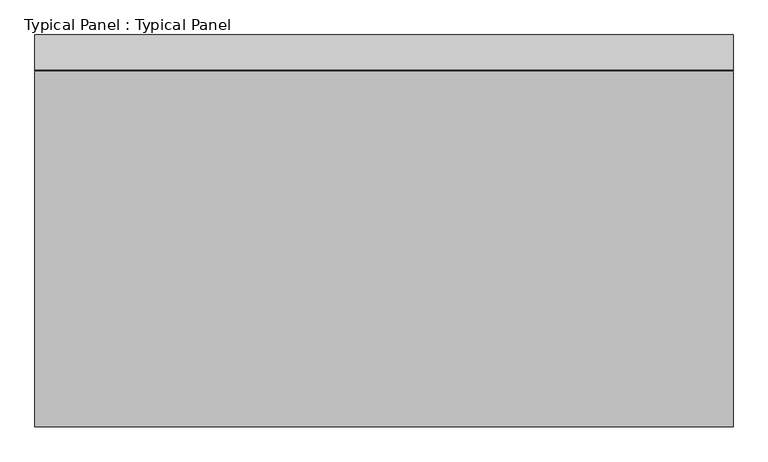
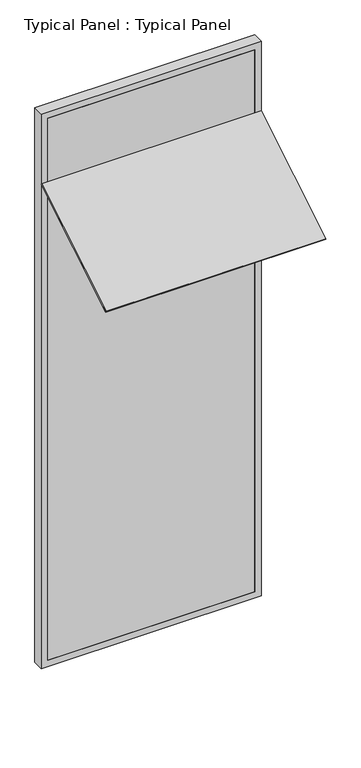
"""IFC4 building model written with IfcOpenShell, lengths in millimetres: plate geometry, Typical Panel : Typical Panel."""

import ifcopenshell
import ifcopenshell.guid

model = None  # the IFC model being written
_history = None  # IfcOwnerHistory: only IFC2X3 demands one
_inside = {}  # id of a spatial element -> (the spatial element, [elements in it])
_under = {}  # id of a project, library or spatial element -> (it, [spatial elements below it])
_declared = {}  # id of a project -> (the project, [libraries it declares])
_typed = {}  # id of a type object -> (the type object, [elements of that type])
_made_of = {}  # id of a material, layer set ... -> (it, [elements and type objects made of it])


def new_model(schema):
    """Start an empty IFC model of exactly this schema.

    Asked for "IFC4X3", IfcOpenShell would pick the latest addendum, in which some entities
    have other attributes; the version numbers below select the first issue.
    IFC2X3 requires an IfcOwnerHistory on every rooted entity: one is made here for all.
    """
    global model, _history
    if schema == "IFC4X3":
        model = ifcopenshell.file(schema_version=(4, 3, 0, 0))
    else:
        model = ifcopenshell.file(schema=schema)
    _inside.clear()
    _under.clear()
    _declared.clear()
    _typed.clear()
    _made_of.clear()
    _history = None
    if model.schema == "IFC2X3":
        org = make("IfcOrganization", Name="unknown")
        user = make(
            "IfcPersonAndOrganization",
            ThePerson=make("IfcPerson", FamilyName="unknown"),
            TheOrganization=org,
        )
        app = make(
            "IfcApplication",
            ApplicationDeveloper=org,
            Version="unknown",
            ApplicationFullName="unknown",
            ApplicationIdentifier="unknown",
        )
        _history = make(
            "IfcOwnerHistory",
            OwningUser=user,
            OwningApplication=app,
            ChangeAction="ADDED",
            CreationDate=0,
        )
    return model


def make(cls, **values):
    """One entity of the class cls with the attributes given. An attribute that is None is left unset."""
    return model.create_entity(
        cls, **{name: value for name, value in values.items() if value is not None}
    )


def rooted(cls, **values):
    """An entity with a GlobalId (a new one), such as an element, a storey or a relation."""
    return make(cls, GlobalId=ifcopenshell.guid.new(), OwnerHistory=_history, **values)


def si_unit(unit_type, name, prefix=None):
    """IfcSIUnit, for example si_unit("LENGTHUNIT", "METRE", prefix="MILLI")."""
    return make("IfcSIUnit", UnitType=unit_type, Prefix=prefix, Name=name)


def assignment(units):
    """IfcUnitAssignment: the units of a project."""
    return None if units is None else make("IfcUnitAssignment", Units=units)


def point(xyz):
    """IfcCartesianPoint."""
    return None if xyz is None else make("IfcCartesianPoint", Coordinates=xyz)


def direction(xyz):
    """IfcDirection."""
    return None if xyz is None else make("IfcDirection", DirectionRatios=xyz)


def frame(location, z_axis=None, x_axis=None):
    """IfcAxis2Placement3D, a coordinate frame: its origin and axes. An axis left out is left unset."""
    return make(
        "IfcAxis2Placement3D",
        Location=point(location),
        Axis=direction(z_axis),
        RefDirection=direction(x_axis),
    )


def origin():
    """The frame at (0, 0, 0) with its axes left unset."""
    return frame((0.0, 0.0, 0.0))


def place(relative_to, where):
    """IfcLocalPlacement: puts the frame where relative to a parent placement (None: the world)."""
    return make(
        "IfcLocalPlacement", PlacementRelTo=relative_to, RelativePlacement=where
    )


def context(
    kind, dimensions, precision=None, world=None, true_north=None, identifier=None
):
    """IfcGeometricRepresentationContext, for example the 3D "Model" context."""
    return make(
        "IfcGeometricRepresentationContext",
        ContextIdentifier=identifier,
        ContextType=kind,
        CoordinateSpaceDimension=dimensions,
        Precision=precision,
        WorldCoordinateSystem=world,
        TrueNorth=true_north,
    )


def project(units=None, contexts=None):
    """IfcProject with its units and contexts."""
    return rooted(
        "IfcProject",
        Name="project",
        RepresentationContexts=contexts,
        UnitsInContext=assignment(units),
    )


def spatial(cls, under=None, at=None, **own):
    """A site, building, storey or space (cls), placed at a placement, below another one or the project."""
    s = rooted(cls, ObjectPlacement=at, **own)
    if under is not None:
        _under.setdefault(under.id(), (under, []))[1].append(s)
    return s


def polyline(points):
    """IfcPolyline through the points."""
    return make("IfcPolyline", Points=[point(p) for p in points])


def outline(outer, holes=None, kind="AREA"):
    """IfcArbitraryClosedProfileDef: a profile drawn as a closed curve; with holes, ...WithVoids."""
    if holes is None:
        return make("IfcArbitraryClosedProfileDef", ProfileType=kind, OuterCurve=outer)
    return make(
        "IfcArbitraryProfileDefWithVoids",
        ProfileType=kind,
        OuterCurve=outer,
        InnerCurves=holes,
    )


def extrude(swept, where, along, depth):
    """IfcExtrudedAreaSolid: the profile swept, set in the frame where, extruded along a direction by depth."""
    return make(
        "IfcExtrudedAreaSolid",
        SweptArea=swept,
        Position=where,
        ExtrudedDirection=direction(along),
        Depth=depth,
    )


def shape(context_of_items, identifier, shape_type, items):
    """IfcShapeRepresentation: the items that make up one representation, for example the "Body"."""
    return make(
        "IfcShapeRepresentation",
        ContextOfItems=context_of_items,
        RepresentationIdentifier=identifier,
        RepresentationType=shape_type,
        Items=items,
    )


def source(mapping_origin, context_of_items, identifier, shape_type, items):
    """IfcRepresentationMap: a shape defined once, which mapped items show again and again."""
    return make(
        "IfcRepresentationMap",
        MappingOrigin=mapping_origin,
        MappedRepresentation=shape(context_of_items, identifier, shape_type, items),
    )


def transform(
    local_origin,
    x_axis=None,
    y_axis=None,
    z_axis=None,
    scale=None,
    scale2=None,
    scale3=None,
    uniform=True,
):
    """IfcCartesianTransformationOperator3D, or its non-uniform kind. x_axis, y_axis, z_axis: its Axis1, 2, 3."""
    if uniform:
        return make(
            "IfcCartesianTransformationOperator3D",
            Axis1=direction(x_axis),
            Axis2=direction(y_axis),
            LocalOrigin=point(local_origin),
            Scale=scale,
            Axis3=direction(z_axis),
        )
    return make(
        "IfcCartesianTransformationOperator3DnonUniform",
        Axis1=direction(x_axis),
        Axis2=direction(y_axis),
        LocalOrigin=point(local_origin),
        Scale=scale,
        Axis3=direction(z_axis),
        Scale2=scale2,
        Scale3=scale3,
    )


def mapped(mapping_source, mapping_target):
    """IfcMappedItem: shows the shape of a source again, moved by a transform."""
    return make(
        "IfcMappedItem", MappingSource=mapping_source, MappingTarget=mapping_target
    )


def made_of(thing, what):
    """Note that an element or type object is made of a material, layer set ...; save() writes the relation."""
    if what is not None:
        _made_of.setdefault(what.id(), (what, []))[1].append(thing)
    return thing


def element(
    cls,
    number,
    at=None,
    inside=None,
    cuts=None,
    type_object=None,
    material=None,
    context=None,
    identifier="Body",
    shape_type=None,
    held_by="IfcProductDefinitionShape",
    body=None,
    shapes=None,
    **own,
):
    """One element of the class cls, such as IfcWall. Its Tag is "e" and its number.

    at: its placement. inside: the storey or other place that contains it. cuts: it is an
    opening in that element (IfcRelVoidsElement). A single representation is given by context,
    identifier, shape_type and body (its items); several are given by shapes. held_by: the class
    of the entity that holds the representations. save() writes the other relations.
    """
    e = rooted(cls, Tag="e%d" % number, ObjectPlacement=at, **own)
    if body is not None:
        shapes = [shape(context, identifier, shape_type, body)]
    if shapes is not None:
        e.Representation = make(held_by, Representations=shapes)
    if inside is not None:
        _inside.setdefault(inside.id(), (inside, []))[1].append(e)
    if cuts is not None:
        rooted(
            "IfcRelVoidsElement", RelatingBuildingElement=cuts, RelatedOpeningElement=e
        )
    if type_object is not None:
        _typed.setdefault(type_object.id(), (type_object, []))[1].append(e)
    return made_of(e, material)


def aggregate(whole, parts):
    """IfcRelAggregates: a whole, such as a stair, and the parts it consists of."""
    return rooted("IfcRelAggregates", RelatingObject=whole, RelatedObjects=parts)


def save(model, path):
    """Write the relations noted so far, then the file.

    IfcRelAggregates (storeys below a building ...), IfcRelContainedInSpatialStructure (elements
    in a storey), IfcRelDefinesByType, IfcRelAssociatesMaterial and IfcRelDeclares: one each for
    every whole, place, type object, material and project.
    """
    for whole, parts in _under.values():
        aggregate(whole, parts)
    for where, things in _inside.values():
        rooted(
            "IfcRelContainedInSpatialStructure",
            RelatedElements=things,
            RelatingStructure=where,
        )
    for kind, things in _typed.values():
        rooted("IfcRelDefinesByType", RelatedObjects=things, RelatingType=kind)
    for what, things in _made_of.values():
        rooted("IfcRelAssociatesMaterial", RelatedObjects=things, RelatingMaterial=what)
    for by, libraries in _declared.values():
        rooted("IfcRelDeclares", RelatingContext=by, RelatedDefinitions=libraries)
    model.write(path)


def typical_panel_typical_panel_4f07c011(model_context):
    return source(origin(), model_context, "Body", "SweptSolid", [
        extrude(outline(polyline([(0.0, -890.0), (0.0, 0.0), (1500.0, 0.0), (1500.0, -890.0), (0.0, -890.0)])), frame((750.0, -762.7285169, 3033.0444403), z_axis=(0.0, -0.5150380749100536, 0.8571673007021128), x_axis=(-1.0, 0.0, 0.0)), (0.0, 0.0, 1.0), 10.0),
        extrude(outline(polyline([(0.0, -750.0), (0.0, 750.0), (4000.0, 750.0), (4000.0, -750.0), (0.0, -750.0)]), holes=[polyline([(45.0, 705.0), (45.0, -705.0), (3955.0, -705.0), (3955.0, 705.0), (45.0, 705.0)])]), frame((0.0, -1.5797986, 0.0), z_axis=(0.0, 1.0, 0.0), x_axis=(0.0, 0.0, 1.0)), (0.0, 0.0, 1.0), 75.0),
        extrude(outline(polyline([(705.0, -1.5797986), (-705.0, -1.5797986), (-705.0, 13.4202014), (705.0, 13.4202014), (705.0, -1.5797986)])), frame((0.0, 0.0, 45.0), z_axis=(0.0, 0.0, 1.0), x_axis=(1.0, 0.0, 0.0)), (0.0, 0.0, 1.0), 3910.0),
    ])


if __name__ == "__main__":
    model = new_model("IFC4")
    model_context = context("Model", 3, world=origin())
    ifc_project = project(units=[si_unit("LENGTHUNIT", "METRE", prefix="MILLI")], contexts=[model_context])
    site = spatial("IfcSite", under=ifc_project)
    building = spatial("IfcBuilding", under=site)
    placement = place(None, origin())
    typical_panel_typical_panel_shape = typical_panel_typical_panel_4f07c011(model_context)
    element("IfcPlate", 1, ObjectType="Typical Panel : Typical Panel", at=placement, inside=building, context=model_context, shape_type="MappedRepresentation", body=[
        mapped(typical_panel_typical_panel_shape, transform((0.0, 0.0, 0.0), x_axis=(1.0, 0.0, 0.0), y_axis=(0.0, 1.0, 0.0), z_axis=(0.0, 0.0, 1.0))),
    ])
    save(model, "model.ifc")
